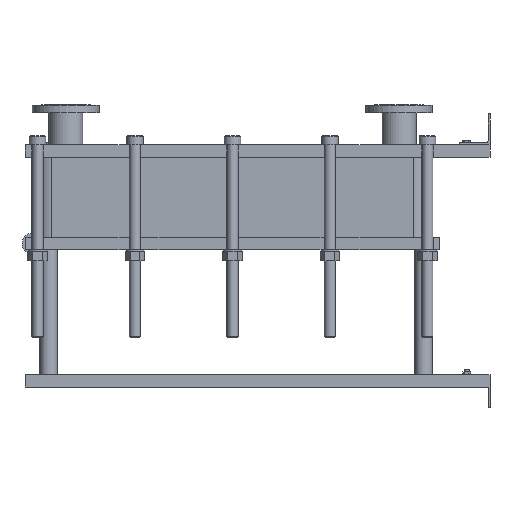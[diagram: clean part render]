
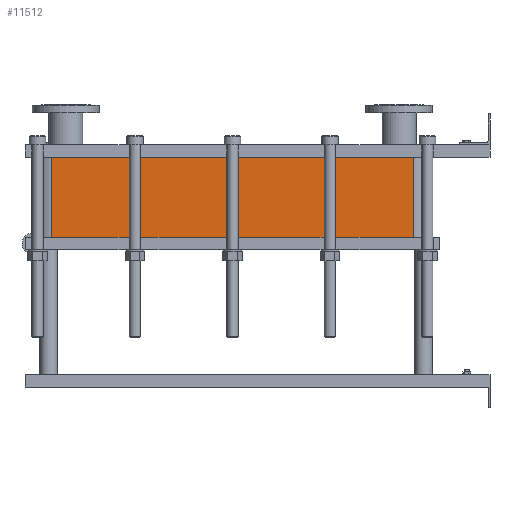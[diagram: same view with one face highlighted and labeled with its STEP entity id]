
A CAD part, left-side view. The second image highlights one B-rep face of the part: STEP entity #11512.
In plain terms, the highlighted planar face has unit normal (-1, 0, 0).
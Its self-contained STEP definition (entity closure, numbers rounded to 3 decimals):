
#1129=LINE('',#23232,#2102);
#1130=LINE('',#23236,#2103);
#1131=LINE('',#23238,#2104);
#1132=LINE('',#23239,#2105);
#2102=VECTOR('',#15887,10.);
#2103=VECTOR('',#15892,10.);
#2104=VECTOR('',#15893,10.);
#2105=VECTOR('',#15894,10.);
#3267=FACE_OUTER_BOUND('',#4093,.T.);
#4093=EDGE_LOOP('',(#10103,#10104,#10105,#10106));
#5642=VERTEX_POINT('',#23229);
#5643=VERTEX_POINT('',#23231);
#5644=VERTEX_POINT('',#23235);
#5645=VERTEX_POINT('',#23237);
#7159=EDGE_CURVE('',#5643,#5642,#1129,.T.);
#7161=EDGE_CURVE('',#5642,#5644,#1130,.T.);
#7162=EDGE_CURVE('',#5645,#5644,#1131,.T.);
#7163=EDGE_CURVE('',#5645,#5643,#1132,.T.);
#10103=ORIENTED_EDGE('',*,*,#7161,.T.);
#10104=ORIENTED_EDGE('',*,*,#7162,.F.);
#10105=ORIENTED_EDGE('',*,*,#7163,.T.);
#10106=ORIENTED_EDGE('',*,*,#7159,.T.);
#10857=PLANE('',#12751);
#11512=ADVANCED_FACE('',(#3267),#10857,.T.);
#12751=AXIS2_PLACEMENT_3D('',#23234,#15890,#15891);
#15887=DIRECTION('',(0.,0.,-1.));
#15890=DIRECTION('center_axis',(-1.,0.,0.));
#15891=DIRECTION('ref_axis',(0.,1.,0.));
#15892=DIRECTION('',(0.,-1.,0.));
#15893=DIRECTION('',(0.,0.,-1.));
#15894=DIRECTION('',(0.,1.,0.));
#23229=CARTESIAN_POINT('',(-200.,1414.,-258.75));
#23231=CARTESIAN_POINT('',(-200.,1414.,0.));
#23232=CARTESIAN_POINT('',(-200.,1414.,0.));
#23234=CARTESIAN_POINT('Origin',(-200.,248.,0.));
#23235=CARTESIAN_POINT('',(-200.,248.,-258.75));
#23236=CARTESIAN_POINT('',(-200.,539.5,-258.75));
#23237=CARTESIAN_POINT('',(-200.,248.,0.));
#23238=CARTESIAN_POINT('',(-200.,248.,0.));
#23239=CARTESIAN_POINT('',(-200.,248.,0.));
